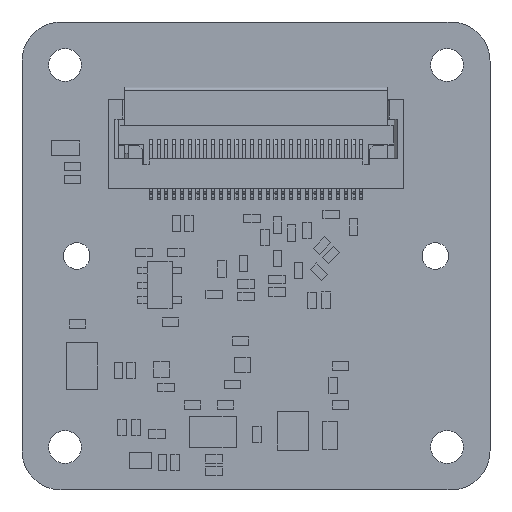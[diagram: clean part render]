
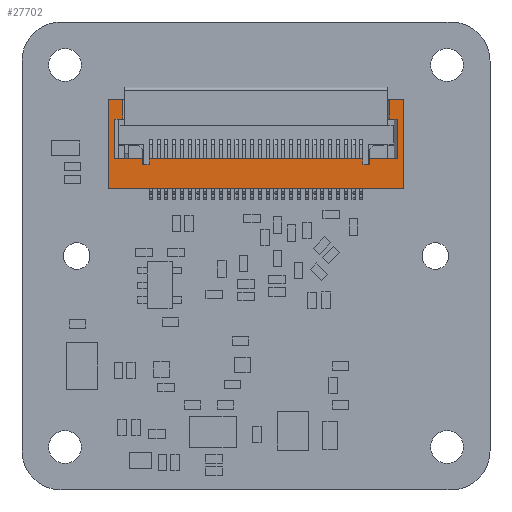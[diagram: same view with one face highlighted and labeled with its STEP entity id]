
A CAD part, top view. The second image highlights one B-rep face of the part: STEP entity #27702.
In plain terms, the highlighted planar face has unit normal (0, 0, 1).
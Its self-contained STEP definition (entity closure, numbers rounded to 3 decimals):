
#1004=FACE_OUTER_BOUND('',#2337,.T.);
#2337=EDGE_LOOP('',(#20663,#20664,#20665,#20666,#20667,#20668,#20669,#20670,
#20671,#20672,#20673,#20674,#20675,#20676,#20677,#20678,#20679,#20680,#20681,
#20682));
#4296=LINE('',#38861,#7749);
#4538=LINE('',#39342,#7991);
#4546=LINE('',#39358,#7999);
#4774=LINE('',#39828,#8227);
#4878=LINE('',#40068,#8331);
#5159=LINE('',#40699,#8612);
#5539=LINE('',#41477,#8992);
#5540=LINE('',#41479,#8993);
#5541=LINE('',#41481,#8994);
#5542=LINE('',#41483,#8995);
#5543=LINE('',#41485,#8996);
#5544=LINE('',#41487,#8997);
#5545=LINE('',#41488,#8998);
#5546=LINE('',#41489,#8999);
#5547=LINE('',#41491,#9000);
#5548=LINE('',#41493,#9001);
#5549=LINE('',#41495,#9002);
#5550=LINE('',#41497,#9003);
#5551=LINE('',#41499,#9004);
#5552=LINE('',#41500,#9005);
#7749=VECTOR('',#31599,1.);
#7991=VECTOR('',#31855,1.);
#7999=VECTOR('',#31863,1.);
#8227=VECTOR('',#32221,1.);
#8331=VECTOR('',#32477,1.);
#8612=VECTOR('',#33148,1.);
#8992=VECTOR('',#33932,1.);
#8993=VECTOR('',#33933,1.);
#8994=VECTOR('',#33934,1.);
#8995=VECTOR('',#33935,1.);
#8996=VECTOR('',#33936,1.);
#8997=VECTOR('',#33937,1.);
#8998=VECTOR('',#33938,1.);
#8999=VECTOR('',#33939,1.);
#9000=VECTOR('',#33940,1.);
#9001=VECTOR('',#33941,1.);
#9002=VECTOR('',#33942,1.);
#9003=VECTOR('',#33943,1.);
#9004=VECTOR('',#33944,1.);
#9005=VECTOR('',#33945,1.);
#11273=VERTEX_POINT('',#38858);
#11274=VERTEX_POINT('',#38860);
#11506=VERTEX_POINT('',#39341);
#11513=VERTEX_POINT('',#39355);
#11514=VERTEX_POINT('',#39357);
#11690=VERTEX_POINT('',#39825);
#11691=VERTEX_POINT('',#39827);
#11750=VERTEX_POINT('',#40066);
#11751=VERTEX_POINT('',#40067);
#12102=VERTEX_POINT('',#41476);
#12103=VERTEX_POINT('',#41478);
#12104=VERTEX_POINT('',#41480);
#12105=VERTEX_POINT('',#41482);
#12106=VERTEX_POINT('',#41484);
#12107=VERTEX_POINT('',#41486);
#12108=VERTEX_POINT('',#41490);
#12109=VERTEX_POINT('',#41492);
#12110=VERTEX_POINT('',#41494);
#12111=VERTEX_POINT('',#41496);
#12112=VERTEX_POINT('',#41498);
#13975=EDGE_CURVE('',#11274,#11273,#4296,.T.);
#14217=EDGE_CURVE('',#11506,#11274,#4538,.T.);
#14225=EDGE_CURVE('',#11514,#11513,#4546,.T.);
#14468=EDGE_CURVE('',#11690,#11691,#4774,.T.);
#14592=EDGE_CURVE('',#11750,#11751,#4878,.T.);
#14915=EDGE_CURVE('',#11506,#11690,#5159,.T.);
#15320=EDGE_CURVE('',#11750,#12102,#5539,.T.);
#15321=EDGE_CURVE('',#12102,#12103,#5540,.T.);
#15322=EDGE_CURVE('',#12104,#12103,#5541,.T.);
#15323=EDGE_CURVE('',#12105,#12104,#5542,.T.);
#15324=EDGE_CURVE('',#12106,#12105,#5543,.T.);
#15325=EDGE_CURVE('',#12106,#12107,#5544,.T.);
#15326=EDGE_CURVE('',#12107,#11514,#5545,.T.);
#15327=EDGE_CURVE('',#11513,#11691,#5546,.T.);
#15328=EDGE_CURVE('',#12108,#11273,#5547,.T.);
#15329=EDGE_CURVE('',#12108,#12109,#5548,.T.);
#15330=EDGE_CURVE('',#12109,#12110,#5549,.T.);
#15331=EDGE_CURVE('',#12110,#12111,#5550,.T.);
#15332=EDGE_CURVE('',#12112,#12111,#5551,.T.);
#15333=EDGE_CURVE('',#11751,#12112,#5552,.T.);
#20663=ORIENTED_EDGE('',*,*,#14592,.F.);
#20664=ORIENTED_EDGE('',*,*,#15320,.T.);
#20665=ORIENTED_EDGE('',*,*,#15321,.T.);
#20666=ORIENTED_EDGE('',*,*,#15322,.F.);
#20667=ORIENTED_EDGE('',*,*,#15323,.F.);
#20668=ORIENTED_EDGE('',*,*,#15324,.F.);
#20669=ORIENTED_EDGE('',*,*,#15325,.T.);
#20670=ORIENTED_EDGE('',*,*,#15326,.T.);
#20671=ORIENTED_EDGE('',*,*,#14225,.T.);
#20672=ORIENTED_EDGE('',*,*,#15327,.T.);
#20673=ORIENTED_EDGE('',*,*,#14468,.F.);
#20674=ORIENTED_EDGE('',*,*,#14915,.F.);
#20675=ORIENTED_EDGE('',*,*,#14217,.T.);
#20676=ORIENTED_EDGE('',*,*,#13975,.T.);
#20677=ORIENTED_EDGE('',*,*,#15328,.F.);
#20678=ORIENTED_EDGE('',*,*,#15329,.T.);
#20679=ORIENTED_EDGE('',*,*,#15330,.T.);
#20680=ORIENTED_EDGE('',*,*,#15331,.T.);
#20681=ORIENTED_EDGE('',*,*,#15332,.F.);
#20682=ORIENTED_EDGE('',*,*,#15333,.F.);
#25079=PLANE('',#29358);
#27702=ADVANCED_FACE('',(#1004),#25079,.F.);
#29358=AXIS2_PLACEMENT_3D('',#41475,#33930,#33931);
#31599=DIRECTION('',(0.,1.,0.));
#31855=DIRECTION('',(-1.,0.,0.));
#31863=DIRECTION('',(-1.,0.,0.));
#32221=DIRECTION('',(1.,0.,0.));
#32477=DIRECTION('',(-1.,0.,0.));
#33148=DIRECTION('',(0.,1.,0.));
#33930=DIRECTION('center_axis',(0.,0.,
-1.));
#33931=DIRECTION('ref_axis',(0.,-1.,0.));
#33932=DIRECTION('',(0.,1.,0.));
#33933=DIRECTION('',(-1.,0.,0.));
#33934=DIRECTION('',(0.,1.,0.));
#33935=DIRECTION('',(-1.,0.,0.));
#33936=DIRECTION('',(0.,1.,0.));
#33937=DIRECTION('',(-1.,0.,0.));
#33938=DIRECTION('',(0.,-1.,0.));
#33939=DIRECTION('',(0.,1.,0.));
#33940=DIRECTION('',(1.,0.,0.));
#33941=DIRECTION('',(0.,1.,0.));
#33942=DIRECTION('',(1.,0.,0.));
#33943=DIRECTION('',(0.,1.,0.));
#33944=DIRECTION('',(1.,0.,0.));
#33945=DIRECTION('',(0.,1.,0.));
#38858=CARTESIAN_POINT('',(7.715,21.225,2.5));
#38860=CARTESIAN_POINT('',(7.715,20.875,2.5));
#38861=CARTESIAN_POINT('',(7.715,25.025,2.5));
#39341=CARTESIAN_POINT('',(8.145,20.875,2.5));
#39342=CARTESIAN_POINT('',(27.645,20.875,2.5));
#39355=CARTESIAN_POINT('',(21.855,20.875,2.5));
#39357=CARTESIAN_POINT('',(22.285,20.875,2.5));
#39358=CARTESIAN_POINT('',(22.175,20.875,2.5));
#39825=CARTESIAN_POINT('',(8.145,21.225,2.5));
#39827=CARTESIAN_POINT('',(21.855,21.225,2.5));
#39828=CARTESIAN_POINT('',(22.645,21.225,2.5));
#40066=CARTESIAN_POINT('',(24.45,19.325,2.5));
#40067=CARTESIAN_POINT('',(5.55,19.325,2.5));
#40068=CARTESIAN_POINT('',(8.145,19.325,2.5));
#40699=CARTESIAN_POINT('',(8.145,25.025,2.5));
#41475=CARTESIAN_POINT('Origin',(12.645,21.225,2.5));
#41476=CARTESIAN_POINT('',(24.45,25.025,2.5));
#41477=CARTESIAN_POINT('',(24.45,25.025,2.5));
#41478=CARTESIAN_POINT('',(23.555,25.025,2.5));
#41479=CARTESIAN_POINT('',(9.355,25.025,2.5));
#41480=CARTESIAN_POINT('',(23.555,23.775,2.5));
#41481=CARTESIAN_POINT('',(23.555,25.025,2.5));
#41482=CARTESIAN_POINT('',(24.05,23.775,2.5));
#41483=CARTESIAN_POINT('',(9.355,23.775,2.5));
#41484=CARTESIAN_POINT('',(24.05,21.225,2.5));
#41485=CARTESIAN_POINT('',(24.05,25.025,2.5));
#41486=CARTESIAN_POINT('',(22.285,21.225,2.5));
#41487=CARTESIAN_POINT('',(9.355,21.225,2.5));
#41488=CARTESIAN_POINT('',(22.285,25.025,2.5));
#41489=CARTESIAN_POINT('',(21.855,25.025,2.5));
#41490=CARTESIAN_POINT('',(5.95,21.225,2.5));
#41491=CARTESIAN_POINT('',(27.645,21.225,2.5));
#41492=CARTESIAN_POINT('',(5.95,23.775,2.5));
#41493=CARTESIAN_POINT('',(5.95,25.025,2.5));
#41494=CARTESIAN_POINT('',(6.445,23.775,2.5));
#41495=CARTESIAN_POINT('',(27.645,23.775,2.5));
#41496=CARTESIAN_POINT('',(6.445,25.025,2.5));
#41497=CARTESIAN_POINT('',(6.445,25.025,2.5));
#41498=CARTESIAN_POINT('',(5.55,25.025,2.5));
#41499=CARTESIAN_POINT('',(27.645,25.025,2.5));
#41500=CARTESIAN_POINT('',(5.55,25.025,2.5));
